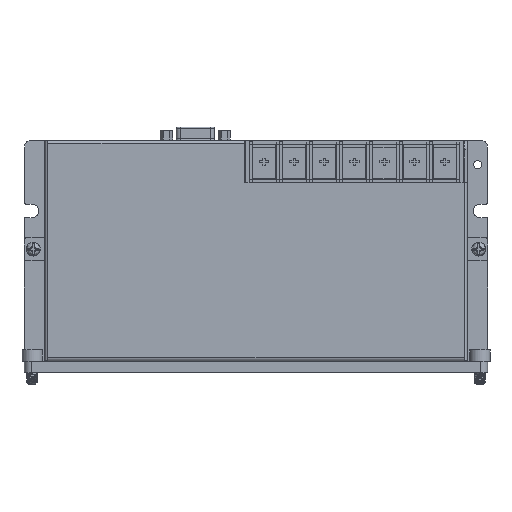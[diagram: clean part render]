
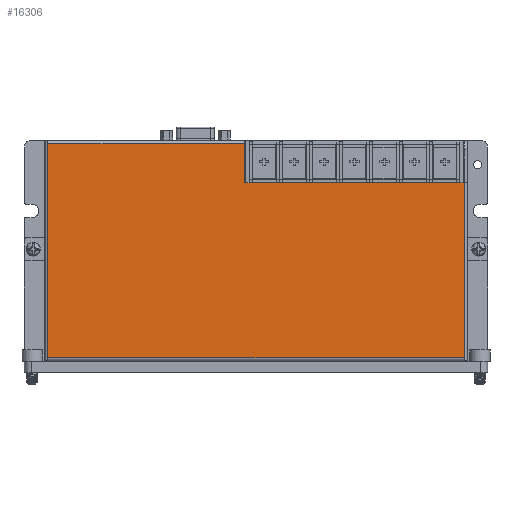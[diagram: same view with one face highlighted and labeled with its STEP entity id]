
A CAD part, top view. The second image highlights one B-rep face of the part: STEP entity #16306.
In plain terms, the highlighted planar face has unit normal (0, 0, 1).
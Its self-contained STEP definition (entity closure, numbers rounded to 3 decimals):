
#12337=DIRECTION('',(-1.,0.,0.));
#12338=VECTOR('',#12337,179.8);
#12339=CARTESIAN_POINT('',(89.9,-46.8,25.3));
#12340=LINE('',#12339,#12338);
#12895=DIRECTION('',(0.,1.,0.));
#12896=VECTOR('',#12895,92.5);
#12897=CARTESIAN_POINT('',(-89.9,-46.8,25.3));
#12898=LINE('',#12897,#12896);
#12929=DIRECTION('',(1.,0.,0.));
#12930=VECTOR('',#12929,84.9);
#12931=CARTESIAN_POINT('',(-89.9,45.7,25.3));
#12932=LINE('',#12931,#12930);
#13236=DIRECTION('',(0.,1.,0.));
#13237=VECTOR('',#13236,16.9);
#13238=CARTESIAN_POINT('',(-5.,28.8,25.3));
#13239=LINE('',#13238,#13237);
#13240=DIRECTION('',(-1.,0.,0.));
#13241=VECTOR('',#13240,94.9);
#13242=CARTESIAN_POINT('',(89.9,28.8,25.3));
#13243=LINE('',#13242,#13241);
#13262=DIRECTION('',(0.,-1.,0.));
#13263=VECTOR('',#13262,75.6);
#13264=CARTESIAN_POINT('',(89.9,28.8,25.3));
#13265=LINE('',#13264,#13263);
#14490=CARTESIAN_POINT('',(-89.9,-46.8,25.3));
#14491=VERTEX_POINT('',#14490);
#14494=CARTESIAN_POINT('',(89.9,-46.8,25.3));
#14495=VERTEX_POINT('',#14494);
#14514=CARTESIAN_POINT('',(-89.9,45.7,25.3));
#14515=VERTEX_POINT('',#14514);
#14938=CARTESIAN_POINT('',(-5.,28.8,25.3));
#14939=CARTESIAN_POINT('',(-5.,45.7,25.3));
#14940=VERTEX_POINT('',#14938);
#14941=VERTEX_POINT('',#14939);
#14950=CARTESIAN_POINT('',(89.9,28.8,25.3));
#14951=VERTEX_POINT('',#14950);
#16292=CARTESIAN_POINT('',(0.,0.,25.3));
#16293=DIRECTION('',(0.,0.,1.));
#16294=DIRECTION('',(1.,0.,0.));
#16295=AXIS2_PLACEMENT_3D('',#16292,#16293,#16294);
#16296=PLANE('',#16295);
#16297=ORIENTED_EDGE('',*,*,#15016,.F.);
#16298=ORIENTED_EDGE('',*,*,#15031,.F.);
#16300=ORIENTED_EDGE('',*,*,#16299,.T.);
#16301=ORIENTED_EDGE('',*,*,#15107,.T.);
#16302=ORIENTED_EDGE('',*,*,#15795,.T.);
#16303=ORIENTED_EDGE('',*,*,#15863,.T.);
#16304=EDGE_LOOP('',(#16297,#16298,#16300,#16301,#16302,#16303));
#16305=FACE_OUTER_BOUND('',#16304,.F.);
#16306=ADVANCED_FACE('',(#16305),#16296,.T.);
#15016=EDGE_CURVE('',#14940,#14941,#13239,.T.);
#15031=EDGE_CURVE('',#14951,#14940,#13243,.T.);
#15107=EDGE_CURVE('',#14495,#14491,#12340,.T.);
#15795=EDGE_CURVE('',#14491,#14515,#12898,.T.);
#15863=EDGE_CURVE('',#14515,#14941,#12932,.T.);
#16299=EDGE_CURVE('',#14951,#14495,#13265,.T.);
